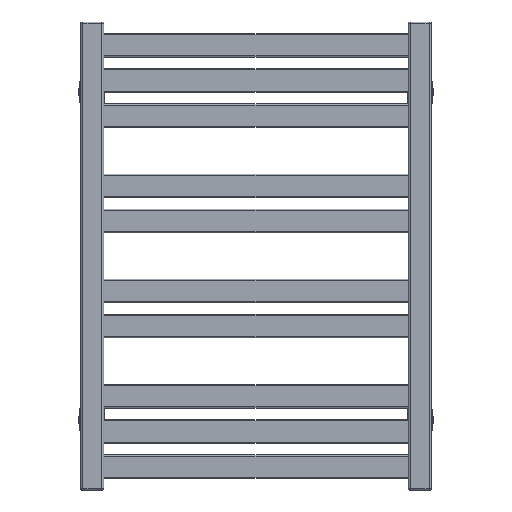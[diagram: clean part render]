
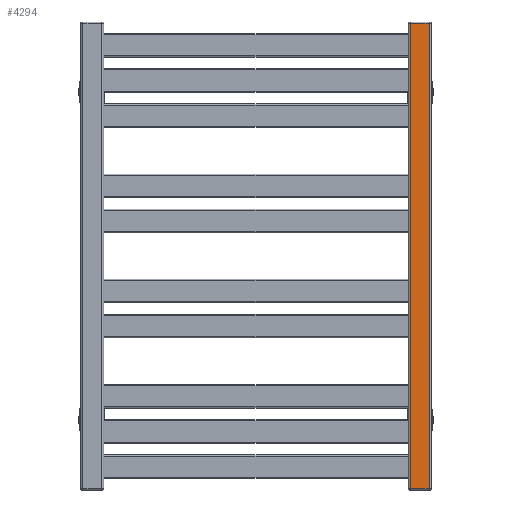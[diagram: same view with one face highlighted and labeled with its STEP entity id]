
A CAD part, front view. The second image highlights one B-rep face of the part: STEP entity #4294.
In plain terms, the highlighted planar face has unit normal (0, -1, 0).
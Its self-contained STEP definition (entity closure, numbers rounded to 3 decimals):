
#3080=CARTESIAN_POINT('',(198.,-15.,1.5));
#3081=VERTEX_POINT('',#3080);
#3138=CARTESIAN_POINT('',(222.,-15.,1.5));
#3139=VERTEX_POINT('',#3138);
#3147=CARTESIAN_POINT('',(222.,-15.,1.5));
#3148=DIRECTION('',(-1.0,0.0,0.0));
#3149=VECTOR('',#3148,24.);
#3150=LINE('',#3147,#3149);
#3151=EDGE_CURVE('',#3139,#3081,#3150,.T.);
#3679=CARTESIAN_POINT('',(198.,-15.,598.5));
#3680=VERTEX_POINT('',#3679);
#3681=CARTESIAN_POINT('',(198.,-15.,1.5));
#3682=DIRECTION('',(0.0,0.0,1.0));
#3683=VECTOR('',#3682,597.0);
#3684=LINE('',#3681,#3683);
#3685=EDGE_CURVE('',#3081,#3680,#3684,.T.);
#3897=CARTESIAN_POINT('',(222.,-15.,598.5));
#3898=VERTEX_POINT('',#3897);
#3914=CARTESIAN_POINT('',(198.,-15.,598.5));
#3915=DIRECTION('',(1.0,0.0,0.0));
#3916=VECTOR('',#3915,24.);
#3917=LINE('',#3914,#3916);
#3918=EDGE_CURVE('',#3680,#3898,#3917,.T.);
#4274=CARTESIAN_POINT('',(222.,-15.,598.5));
#4275=DIRECTION('',(0.0,0.0,-1.0));
#4276=VECTOR('',#4275,597.0);
#4277=LINE('',#4274,#4276);
#4278=EDGE_CURVE('',#3898,#3139,#4277,.T.);
#4283=CARTESIAN_POINT('',(225.,-15.,0.0));
#4284=DIRECTION('',(0.0,-1.0,0.0));
#4285=DIRECTION('',(0.0,0.0,-1.0));
#4286=AXIS2_PLACEMENT_3D('',#4283,#4284,#4285);
#4287=PLANE('',#4286);
#4288=ORIENTED_EDGE('',*,*,#3151,.F.);
#4289=ORIENTED_EDGE('',*,*,#4278,.F.);
#4290=ORIENTED_EDGE('',*,*,#3918,.F.);
#4291=ORIENTED_EDGE('',*,*,#3685,.F.);
#4292=EDGE_LOOP('',(#4288,#4289,#4290,#4291));
#4293=FACE_OUTER_BOUND('',#4292,.T.);
#4294=ADVANCED_FACE('',(#4293),#4287,.T.);
